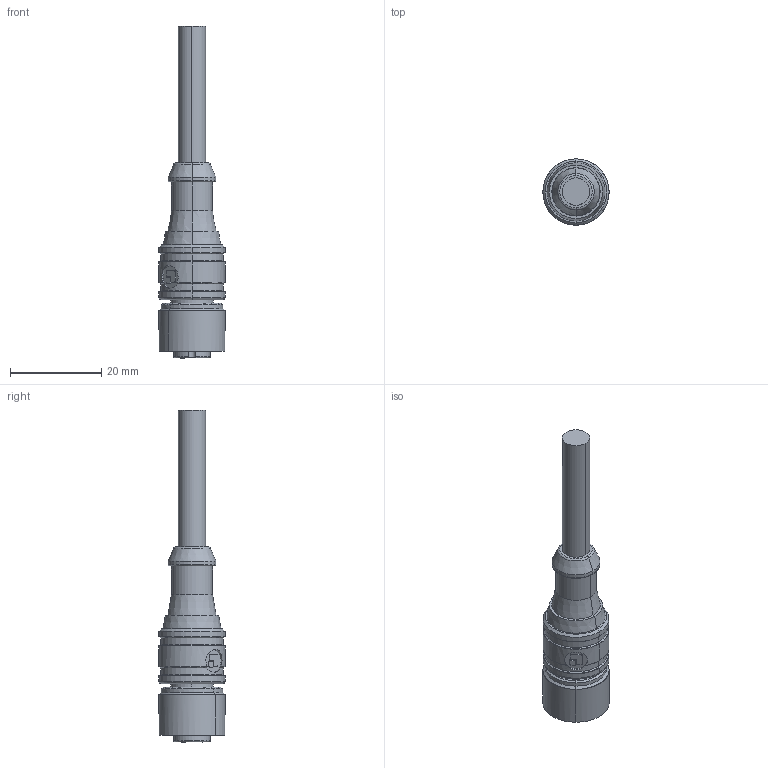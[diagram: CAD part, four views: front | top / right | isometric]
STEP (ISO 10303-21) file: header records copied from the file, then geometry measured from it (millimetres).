
FILE_DESCRIPTION(('Creo Elements/Direct Modeling STEP Export'),'2;1');
FILE_NAME('C:/Data/JobServerData/JobServer Files/be7ddc84-3190-4a87-9461-6b0befd224e6/work/output/model.stp','2018-04-11T 9:58:18',(''),(''),'PTC Creo Elements/Direct Modeling STEP processor for AP214 (Solid Model)','PTC Creo Elements/Direct Modeling 19.0B 21-Mar-2015 (C) Parametric Technology GmbH','');
FILE_SCHEMA(('AUTOMOTIVE_DESIGN { 1 0 10303 214 1 1 1 1 }'));
Length unit declared in the file: millimetre
Products named in the file (2): 1200_08
Assembly tree (1 placements, depth 2):
  1200_08
    1200_08
Bounding box: 14.5 x 14.5 x 72.8 mm (x, y, z)
Volume: 5587.9 mm3; surface area: 3334.2 mm2
Topology: 1 solids, 1 shells, 146 faces, 333 edges, 212 vertices
Faces by surface type: cylinder 55, plane 54, cone 24, torus 11, revolution 2
Entity records: 5963 total; most frequent: CARTESIAN_POINT 2315, ORIENTED_EDGE 666, DIRECTION 643, EDGE_CURVE 333, AXIS2_PLACEMENT_3D 244, VERTEX_POINT 212, EDGE_LOOP 169, VECTOR 152
